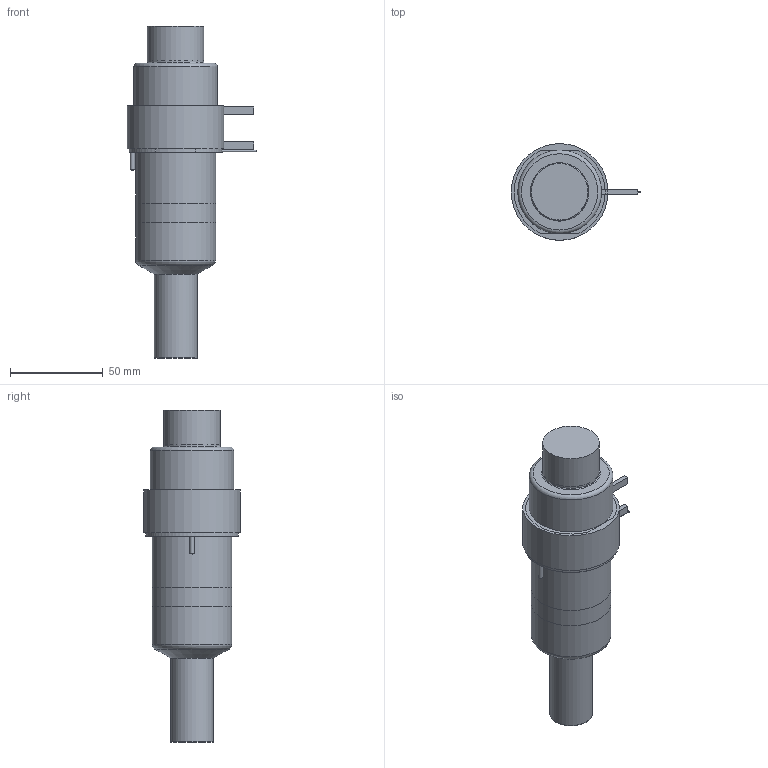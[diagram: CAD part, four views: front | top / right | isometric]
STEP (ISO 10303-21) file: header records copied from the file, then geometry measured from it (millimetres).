
FILE_DESCRIPTION(/* description */ (''),/* implementation_level */ '2;1');
FILE_NAME(/* name */ 'SXYCN27075P7U_200C_a',/* time_stamp */ '2016-03-07T10:29:32+13:00',/* author */ (''),/* organization */ (''),/* preprocessor_version */ 'ST-DEVELOPER v9',/* originating_system */ 'UGS - NX 4.0',/* authorisation */ '');
FILE_SCHEMA (('CONFIG_CONTROL_DESIGN'));
Length unit declared in the file: millimetre
Products named in the file (1): Matt0C2Fmyc4
Bounding box: 69.6 x 52 x 178.5 mm (x, y, z)
Volume: 384274.8 mm3; surface area: 53379.5 mm2
Topology: 7 solids, 7 shells, 91 faces, 176 edges, 113 vertices
Faces by surface type: plane 43, cylinder 29, torus 9, cone 8, bspline 1, sphere 1
Full cylindrical faces by diameter (mm): 1 x3, 2.2 x1, 2.5 x2, 12 x2, 22.61 x1, 22.995 x2, 27.5 x1, 30 x1, 30.4 x1, 38.1 x2, 43 x2, 45 x1, 50 x1, 52 x1
Entity records: 2357 total; most frequent: CARTESIAN_POINT 540, DIRECTION 380, ORIENTED_EDGE 276, AXIS2_PLACEMENT_3D 165, EDGE_LOOP 138, EDGE_CURVE 138, VERTEX_POINT 109, ADVANCED_FACE 91
